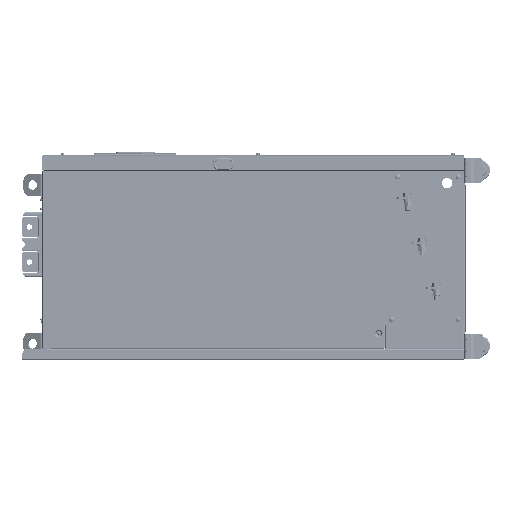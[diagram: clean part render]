
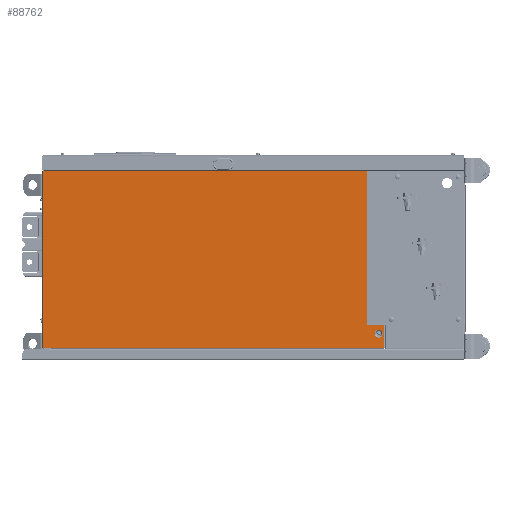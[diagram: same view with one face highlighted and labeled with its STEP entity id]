
A CAD part, left-side view. The second image highlights one B-rep face of the part: STEP entity #88762.
In plain terms, the highlighted planar face has unit normal (-1, 0, 0) as drawn and (0, 1, 0) by its records, which use the part's own axes.
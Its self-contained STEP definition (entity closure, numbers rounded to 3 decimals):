
#86215=DIRECTION('',(0.,0.,1.));
#86216=VECTOR('',#86215,20.);
#86217=CARTESIAN_POINT('',(214.6,0.,0.3));
#86218=LINE('',#86217,#86216);
#86222=DIRECTION('',(-1.,0.,0.));
#86223=VECTOR('',#86222,0.3);
#86224=CARTESIAN_POINT('',(214.6,0.,20.3));
#86225=LINE('',#86224,#86223);
#86229=DIRECTION('',(0.,0.,-1.));
#86230=VECTOR('',#86229,18.);
#86231=CARTESIAN_POINT('',(-214.6,0.,18.3));
#86232=LINE('',#86231,#86230);
#86236=CARTESIAN_POINT('',(181.1,0.,814.25));
#86237=DIRECTION('',(0.,1.,0.));
#86238=DIRECTION('',(1.,0.,-0.013));
#86239=AXIS2_PLACEMENT_3D('',#86236,#86237,#86238);
#86244=CARTESIAN_POINT('',(181.1,0.,814.25));
#86245=DIRECTION('',(0.,1.,0.));
#86246=DIRECTION('',(-1.,0.,0.013));
#86247=AXIS2_PLACEMENT_3D('',#86244,#86245,#86246);
#86252=CARTESIAN_POINT('',(-178.9,0.,814.25));
#86253=DIRECTION('',(0.,1.,0.));
#86254=DIRECTION('',(1.,0.,-0.013));
#86255=AXIS2_PLACEMENT_3D('',#86252,#86253,#86254);
#86260=CARTESIAN_POINT('',(-178.9,0.,814.25));
#86261=DIRECTION('',(0.,1.,0.));
#86262=DIRECTION('',(-1.,0.,0.013));
#86263=AXIS2_PLACEMENT_3D('',#86260,#86261,#86262);
#86437=DIRECTION('',(0.,0.,1.));
#86438=VECTOR('',#86437,808.9);
#86439=CARTESIAN_POINT('',(-214.6,0.,18.3));
#86440=LINE('',#86439,#86438);
#86668=DIRECTION('',(-1.,0.,0.));
#86669=VECTOR('',#86668,429.2);
#86670=CARTESIAN_POINT('',(214.6,0.,0.3));
#86671=LINE('',#86670,#86669);
#87089=DIRECTION('',(1.,0.,0.));
#87090=VECTOR('',#87089,428.9);
#87091=CARTESIAN_POINT('',(-214.6,0.,827.2));
#87092=LINE('',#87091,#87090);
#87526=DIRECTION('',(0.,0.,-1.));
#87527=VECTOR('',#87526,806.9);
#87528=CARTESIAN_POINT('',(214.3,0.,827.2));
#87529=LINE('',#87528,#87527);
#87964=CARTESIAN_POINT('',(-188.697,0.,814.38));
#87965=CARTESIAN_POINT('',(-188.697,0.,814.367));
#87966=CARTESIAN_POINT('',(-188.697,0.,814.338));
#87967=CARTESIAN_POINT('',(-188.697,0.,814.294));
#87968=CARTESIAN_POINT('',(-188.697,0.,814.265));
#87969=CARTESIAN_POINT('',(-188.697,0.,814.249));
#87998=CARTESIAN_POINT('',(-169.103,0.,814.12));
#87999=CARTESIAN_POINT('',(-169.103,0.,814.133));
#88000=CARTESIAN_POINT('',(-169.103,0.,814.162));
#88001=CARTESIAN_POINT('',(-169.103,0.,814.206));
#88002=CARTESIAN_POINT('',(-169.103,0.,814.235));
#88003=CARTESIAN_POINT('',(-169.103,0.,814.251));
#88298=CARTESIAN_POINT('',(171.303,0.,814.38));
#88299=CARTESIAN_POINT('',(171.303,0.,814.367));
#88300=CARTESIAN_POINT('',(171.303,0.,814.338));
#88301=CARTESIAN_POINT('',(171.303,0.,814.294));
#88302=CARTESIAN_POINT('',(171.303,0.,814.265));
#88303=CARTESIAN_POINT('',(171.303,0.,814.249));
#88332=CARTESIAN_POINT('',(190.897,0.,814.12));
#88333=CARTESIAN_POINT('',(190.897,0.,814.133));
#88334=CARTESIAN_POINT('',(190.897,0.,814.162));
#88335=CARTESIAN_POINT('',(190.897,0.,814.206));
#88336=CARTESIAN_POINT('',(190.897,0.,814.235));
#88337=CARTESIAN_POINT('',(190.897,0.,814.251));
#88380=CARTESIAN_POINT('',(214.6,0.,0.3));
#88381=CARTESIAN_POINT('',(214.6,0.,20.3));
#88382=VERTEX_POINT('',#88380);
#88383=VERTEX_POINT('',#88381);
#88384=CARTESIAN_POINT('',(214.3,0.,20.3));
#88385=VERTEX_POINT('',#88384);
#88386=CARTESIAN_POINT('',(214.3,0.,827.2));
#88387=VERTEX_POINT('',#88386);
#88388=CARTESIAN_POINT('',(-214.6,0.,827.2));
#88389=VERTEX_POINT('',#88388);
#88390=CARTESIAN_POINT('',(-214.6,0.,18.3));
#88391=VERTEX_POINT('',#88390);
#88392=CARTESIAN_POINT('',(-214.6,0.,0.3));
#88393=VERTEX_POINT('',#88392);
#88394=VERTEX_POINT('',#88332);
#88395=VERTEX_POINT('',#88337);
#88396=CARTESIAN_POINT('',(171.303,0.,814.248));
#88397=VERTEX_POINT('',#88396);
#88398=VERTEX_POINT('',#88298);
#88399=VERTEX_POINT('',#87998);
#88400=VERTEX_POINT('',#88003);
#88401=CARTESIAN_POINT('',(-188.697,0.,814.248));
#88402=VERTEX_POINT('',#88401);
#88403=VERTEX_POINT('',#87964);
#88721=CARTESIAN_POINT('',(0.,0.,0.));
#88722=DIRECTION('',(0.,1.,0.));
#88723=DIRECTION('',(1.,0.,0.));
#88724=AXIS2_PLACEMENT_3D('',#88721,#88722,#88723);
#88725=PLANE('',#88724);
#88727=ORIENTED_EDGE('',*,*,#88726,.T.);
#88729=ORIENTED_EDGE('',*,*,#88728,.T.);
#88731=ORIENTED_EDGE('',*,*,#88730,.F.);
#88733=ORIENTED_EDGE('',*,*,#88732,.F.);
#88735=ORIENTED_EDGE('',*,*,#88734,.F.);
#88737=ORIENTED_EDGE('',*,*,#88736,.T.);
#88739=ORIENTED_EDGE('',*,*,#88738,.F.);
#88740=EDGE_LOOP('',(#88727,#88729,#88731,#88733,#88735,#88737,#88739));
#88741=FACE_OUTER_BOUND('',#88740,.F.);
#88743=ORIENTED_EDGE('',*,*,#88742,.F.);
#88745=ORIENTED_EDGE('',*,*,#88744,.T.);
#88747=ORIENTED_EDGE('',*,*,#88746,.F.);
#88749=ORIENTED_EDGE('',*,*,#88748,.T.);
#88750=EDGE_LOOP('',(#88743,#88745,#88747,#88749));
#88751=FACE_BOUND('',#88750,.F.);
#88753=ORIENTED_EDGE('',*,*,#88752,.F.);
#88755=ORIENTED_EDGE('',*,*,#88754,.T.);
#88757=ORIENTED_EDGE('',*,*,#88756,.F.);
#88759=ORIENTED_EDGE('',*,*,#88758,.T.);
#88760=EDGE_LOOP('',(#88753,#88755,#88757,#88759));
#88761=FACE_BOUND('',#88760,.F.);
#86240=CIRCLE('',#86239,9.797);
#86248=CIRCLE('',#86247,9.797);
#86256=CIRCLE('',#86255,9.797);
#86264=CIRCLE('',#86263,9.797);
#87970=B_SPLINE_CURVE_WITH_KNOTS('',3,(#87964,#87965,#87966,#87967,#87968,
#87969),.UNSPECIFIED.,.F.,.F.,(4,1,1,4),(0.,0.333,
0.667,1.),.UNSPECIFIED.);
#88004=B_SPLINE_CURVE_WITH_KNOTS('',3,(#87998,#87999,#88000,#88001,#88002,
#88003),.UNSPECIFIED.,.F.,.F.,(4,1,1,4),(0.,0.333,
0.667,1.),.UNSPECIFIED.);
#88304=B_SPLINE_CURVE_WITH_KNOTS('',3,(#88298,#88299,#88300,#88301,#88302,
#88303),.UNSPECIFIED.,.F.,.F.,(4,1,1,4),(0.,0.333,
0.667,1.),.UNSPECIFIED.);
#88338=B_SPLINE_CURVE_WITH_KNOTS('',3,(#88332,#88333,#88334,#88335,#88336,
#88337),.UNSPECIFIED.,.F.,.F.,(4,1,1,4),(0.,0.333,
0.667,1.),.UNSPECIFIED.);
#88726=EDGE_CURVE('',#88382,#88383,#86218,.T.);
#88728=EDGE_CURVE('',#88383,#88385,#86225,.T.);
#88730=EDGE_CURVE('',#88387,#88385,#87529,.T.);
#88732=EDGE_CURVE('',#88389,#88387,#87092,.T.);
#88734=EDGE_CURVE('',#88391,#88389,#86440,.T.);
#88736=EDGE_CURVE('',#88391,#88393,#86232,.T.);
#88738=EDGE_CURVE('',#88382,#88393,#86671,.T.);
#88742=EDGE_CURVE('',#88394,#88395,#88338,.T.);
#88744=EDGE_CURVE('',#88394,#88397,#86240,.T.);
#88746=EDGE_CURVE('',#88398,#88397,#88304,.T.);
#88748=EDGE_CURVE('',#88398,#88395,#86248,.T.);
#88752=EDGE_CURVE('',#88399,#88400,#88004,.T.);
#88754=EDGE_CURVE('',#88399,#88402,#86256,.T.);
#88756=EDGE_CURVE('',#88403,#88402,#87970,.T.);
#88758=EDGE_CURVE('',#88403,#88400,#86264,.T.);
#88762=ADVANCED_FACE('',(#88741,#88751,#88761),#88725,.T.);
